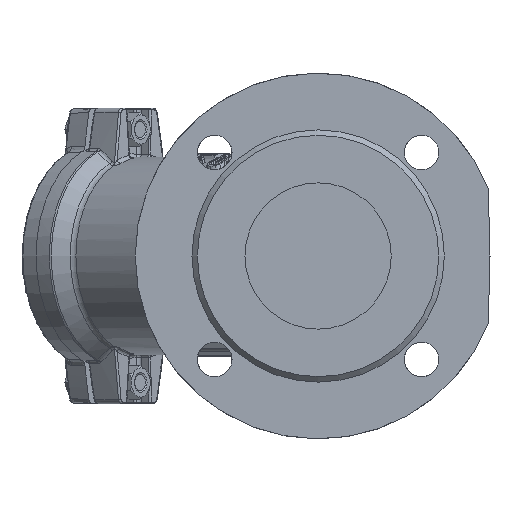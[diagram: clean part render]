
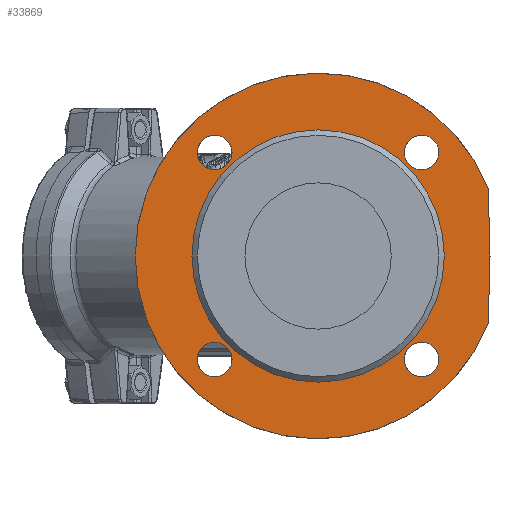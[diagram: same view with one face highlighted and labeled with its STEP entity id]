
A CAD part, left-side view. The second image highlights one B-rep face of the part: STEP entity #33869.
In plain terms, the highlighted planar face has unit normal (-1, 0, 0).
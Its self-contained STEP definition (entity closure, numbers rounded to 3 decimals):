
#157 = EDGE_CURVE ( 'NONE', #3972, #39887, #59930, .T. ) ;
#1420 = ORIENTED_EDGE ( 'NONE', *, *, #157, .T. ) ;
#2262 = AXIS2_PLACEMENT_3D ( 'NONE', #44033, #10096, #48270 ) ;
#3889 = EDGE_CURVE ( 'NONE', #33859, #33859, #49776, .T. ) ;
#3972 = VERTEX_POINT ( 'NONE', #33991 ) ;
#4287 = EDGE_LOOP ( 'NONE', ( #51308 ) ) ;
#5216 = DIRECTION ( 'NONE',  ( 1., 0., 0. ) ) ;
#5217 = CARTESIAN_POINT ( 'NONE',  ( -137., 56.569, -56.569 ) ) ;
#5449 = AXIS2_PLACEMENT_3D ( 'NONE', #5217, #34934, #40758 ) ;
#6900 = ORIENTED_EDGE ( 'NONE', *, *, #59042, .T. ) ;
#7288 = CIRCLE ( 'NONE', #49600, 9.5 ) ;
#8085 = LINE ( 'NONE', #11743, #41793 ) ;
#8654 = EDGE_LOOP ( 'NONE', ( #21994 ) ) ;
#8780 = EDGE_CURVE ( 'NONE', #22029, #22029, #7288, .T. ) ;
#9105 = CARTESIAN_POINT ( 'NONE',  ( -137., -56.569, -56.569 ) ) ;
#10096 = DIRECTION ( 'NONE',  ( 1., 0., 0. ) ) ;
#10548 = DIRECTION ( 'NONE',  ( 0., 0.026, 1. ) ) ;
#11743 = CARTESIAN_POINT ( 'NONE',  ( -137., -93.983, -0.654 ) ) ;
#11909 = EDGE_CURVE ( 'NONE', #3972, #29392, #8085, .T. ) ;
#12420 = DIRECTION ( 'NONE',  ( 0., 0., 1. ) ) ;
#12837 = CARTESIAN_POINT ( 'NONE',  ( -137., -93.04, -36.654 ) ) ;
#13998 = CIRCLE ( 'NONE', #59352, 100. ) ;
#14313 = FACE_OUTER_BOUND ( 'NONE', #33014, .T. ) ;
#15132 = VERTEX_POINT ( 'NONE', #25460 ) ;
#15576 = CARTESIAN_POINT ( 'NONE',  ( -137., -69., 0. ) ) ;
#16949 = DIRECTION ( 'NONE',  ( -1., 0., 0. ) ) ;
#18531 = EDGE_LOOP ( 'NONE', ( #33655 ) ) ;
#19089 = CARTESIAN_POINT ( 'NONE',  ( -137., -93.04, 36.654 ) ) ;
#19139 = CIRCLE ( 'NONE', #27426, 9.5 ) ;
#19394 = EDGE_LOOP ( 'NONE', ( #45141 ) ) ;
#20268 = ORIENTED_EDGE ( 'NONE', *, *, #11909, .F. ) ;
#20280 = VERTEX_POINT ( 'NONE', #34482 ) ;
#20313 = DIRECTION ( 'NONE',  ( 1., 0., 0. ) ) ;
#21994 = ORIENTED_EDGE ( 'NONE', *, *, #48136, .F. ) ;
#22029 = VERTEX_POINT ( 'NONE', #23850 ) ;
#22680 = DIRECTION ( 'NONE',  ( 1., 0., 0. ) ) ;
#23359 = FACE_BOUND ( 'NONE', #4287, .T. ) ;
#23850 = CARTESIAN_POINT ( 'NONE',  ( -137., -56.569, 66.069 ) ) ;
#24253 = CARTESIAN_POINT ( 'NONE',  ( -137., 0., 0. ) ) ;
#24634 = DIRECTION ( 'NONE',  ( 0., 0., -1. ) ) ;
#25460 = CARTESIAN_POINT ( 'NONE',  ( -137., 0., -69. ) ) ;
#27426 = AXIS2_PLACEMENT_3D ( 'NONE', #9105, #22680, #57580 ) ;
#29170 = FACE_BOUND ( 'NONE', #32965, .T. ) ;
#29392 = VERTEX_POINT ( 'NONE', #12837 ) ;
#30015 = CARTESIAN_POINT ( 'NONE',  ( -137., 0., 0. ) ) ;
#31924 = AXIS2_PLACEMENT_3D ( 'NONE', #15576, #5216, #24634 ) ;
#32965 = EDGE_LOOP ( 'NONE', ( #6900 ) ) ;
#33014 = EDGE_LOOP ( 'NONE', ( #20268, #1420, #63830 ) ) ;
#33655 = ORIENTED_EDGE ( 'NONE', *, *, #3889, .T. ) ;
#33859 = VERTEX_POINT ( 'NONE', #53591 ) ;
#33869 = ADVANCED_FACE ( 'NONE', ( #14313, #29170, #23359, #62073, #43058, #52479 ), #57305, .F. ) ;
#33991 = CARTESIAN_POINT ( 'NONE',  ( -137., -94., 0. ) ) ;
#34482 = CARTESIAN_POINT ( 'NONE',  ( -137., -56.569, -66.069 ) ) ;
#34934 = DIRECTION ( 'NONE',  ( -1., 0., 0. ) ) ;
#39887 = VERTEX_POINT ( 'NONE', #19089 ) ;
#39986 = VERTEX_POINT ( 'NONE', #58752 ) ;
#40758 = DIRECTION ( 'NONE',  ( 0., 0., -1. ) ) ;
#41793 = VECTOR ( 'NONE', #47512, 1000. ) ;
#42611 = AXIS2_PLACEMENT_3D ( 'NONE', #24253, #44918, #54614 ) ;
#43058 = FACE_BOUND ( 'NONE', #19394, .T. ) ;
#44033 = CARTESIAN_POINT ( 'NONE',  ( -137., 56.569, 56.569 ) ) ;
#44918 = DIRECTION ( 'NONE',  ( 1., 0., 0. ) ) ;
#45141 = ORIENTED_EDGE ( 'NONE', *, *, #8780, .F. ) ;
#45584 = VECTOR ( 'NONE', #10548, 1000. ) ;
#47512 = DIRECTION ( 'NONE',  ( 0., 0.026, -1. ) ) ;
#47569 = EDGE_CURVE ( 'NONE', #29392, #39887, #13998, .T. ) ;
#47637 = CARTESIAN_POINT ( 'NONE',  ( -137., -56.569, 56.569 ) ) ;
#47773 = EDGE_CURVE ( 'NONE', #20280, #20280, #19139, .T. ) ;
#48136 = EDGE_CURVE ( 'NONE', #39986, #39986, #52942, .T. ) ;
#48270 = DIRECTION ( 'NONE',  ( 0., 0., 1. ) ) ;
#49600 = AXIS2_PLACEMENT_3D ( 'NONE', #47637, #16949, #12420 ) ;
#49776 = CIRCLE ( 'NONE', #2262, 9.5 ) ;
#49989 = CARTESIAN_POINT ( 'NONE',  ( -137., -93.983, 0.654 ) ) ;
#51308 = ORIENTED_EDGE ( 'NONE', *, *, #47773, .T. ) ;
#52479 = FACE_BOUND ( 'NONE', #18531, .T. ) ;
#52942 = CIRCLE ( 'NONE', #5449, 9.5 ) ;
#53591 = CARTESIAN_POINT ( 'NONE',  ( -137., 56.569, 66.069 ) ) ;
#54614 = DIRECTION ( 'NONE',  ( 0., 0., -1. ) ) ;
#57305 = PLANE ( 'NONE',  #31924 ) ;
#57580 = DIRECTION ( 'NONE',  ( 0., 0., -1. ) ) ;
#58104 = CIRCLE ( 'NONE', #42611, 69. ) ;
#58752 = CARTESIAN_POINT ( 'NONE',  ( -137., 56.569, -66.069 ) ) ;
#59042 = EDGE_CURVE ( 'NONE', #15132, #15132, #58104, .T. ) ;
#59352 = AXIS2_PLACEMENT_3D ( 'NONE', #30015, #20313, #61202 ) ;
#59930 = LINE ( 'NONE', #49989, #45584 ) ;
#61202 = DIRECTION ( 'NONE',  ( 0., 0., -1. ) ) ;
#62073 = FACE_BOUND ( 'NONE', #8654, .T. ) ;
#63830 = ORIENTED_EDGE ( 'NONE', *, *, #47569, .F. ) ;
